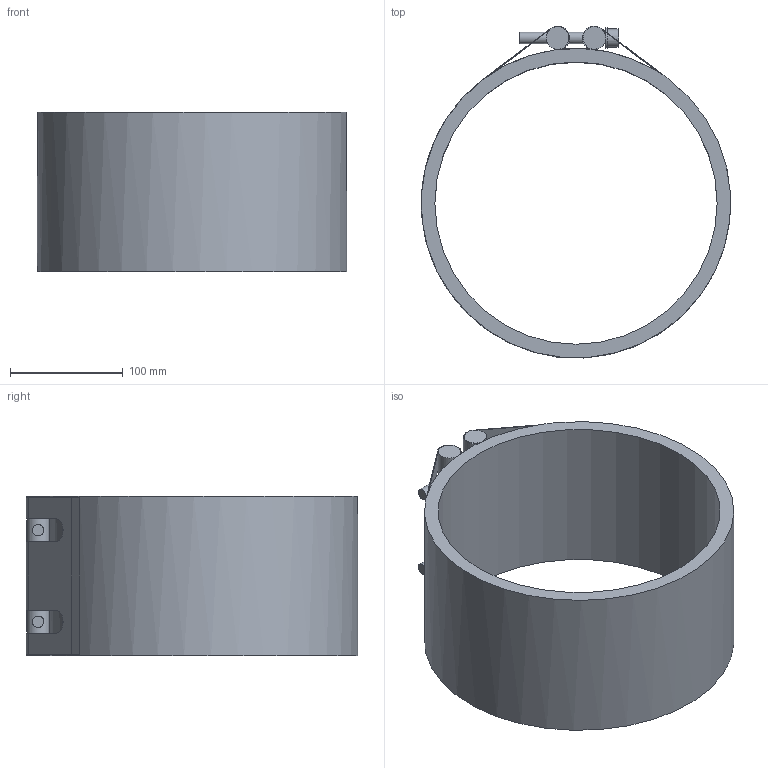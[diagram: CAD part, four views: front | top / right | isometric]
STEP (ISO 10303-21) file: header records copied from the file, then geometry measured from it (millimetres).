
FILE_DESCRIPTION(/* description */ (''),/* implementation_level */ '2;1');
FILE_NAME(/* name */ 'C:\Users\BR_11K\Desktop\STRAUB PLAST-GRIP 250.0.stp',/* time_stamp */ '2016-05-09T08:31:42+02:00',/* author */ ('BR_11K'),/* organization */ (''),/* preprocessor_version */ 'ST-DEVELOPER v16.1',/* originating_system */ 'Autodesk Inventor 2016',/* authorisation */ '');
FILE_SCHEMA (('AUTOMOTIVE_DESIGN { 1 0 10303 214 3 1 1 }'));
Length unit declared in the file: millimetre
Products named in the file (1): STRAUB PLAST-GRIP 250.0
Bounding box: 273.85 x 293.82 x 141 mm (x, y, z)
Volume: 1515859.2 mm3; surface area: 302241.6 mm2
Topology: 1 solids, 1 shells, 88 faces, 254 edges, 163 vertices
Faces by surface type: plane 56, cylinder 30, torus 2
Full cylindrical faces by diameter (mm): 10 x4, 16 x2, 18 x2, 20 x2, 250 x1, 274.2 x1
Entity records: 3052 total; most frequent: CARTESIAN_POINT 739, DIRECTION 476, ORIENTED_EDGE 460, EDGE_CURVE 226, AXIS2_PLACEMENT_3D 171, VERTEX_POINT 156, LINE 134, VECTOR 134
